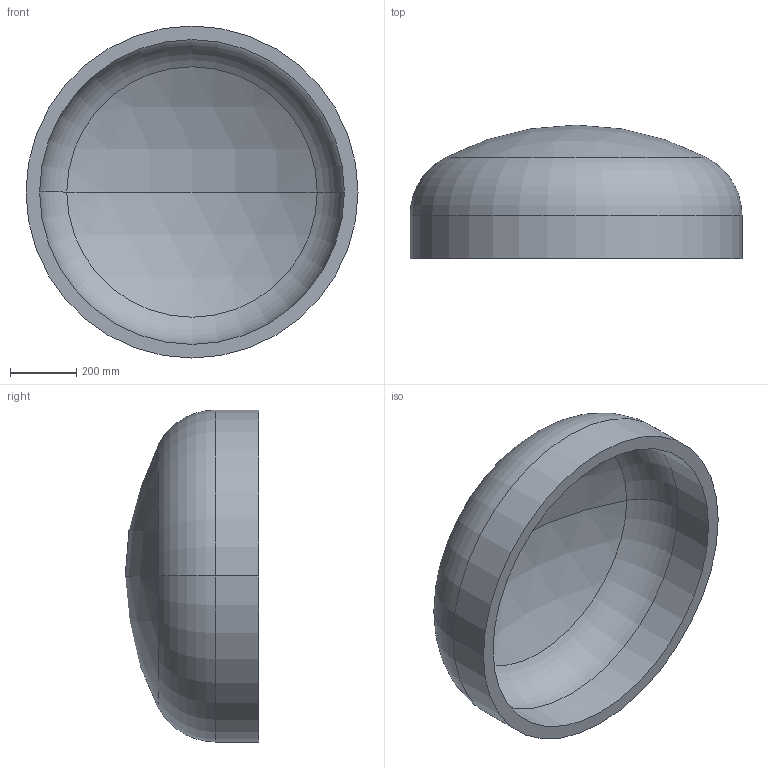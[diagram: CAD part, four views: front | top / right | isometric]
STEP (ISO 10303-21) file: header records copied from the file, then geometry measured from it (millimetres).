
FILE_DESCRIPTION (( 'STEP AP203' ), '1' );
FILE_NAME ('DIN 28013 Korbbogenform_-_Boden DIN 28013 - 1000 x 130 - I - s=41.step', '2016-07-01T08:48:55', ( '' ), ( '' ), 'SwSTEP 2.0', 'SolidWorks 2013', '' );
FILE_SCHEMA (( 'CONFIG_CONTROL_DESIGN' ));
Length unit declared in the file: millimetre
Products named in the file (1): DIN 28013 Korbbogenform_-_Boden DIN 28013 - 1000 x 130 - I - s=41
Bounding box: 1000 x 402.13 x 1000 mm (x, y, z)
Volume: 58406791.8 mm3; surface area: 2976156.1 mm2
Topology: 1 solids, 1 shells, 13 faces, 24 edges, 14 vertices
Faces by surface type: torus 4, cylinder 4, sphere 4, plane 1
Entity records: 407 total; most frequent: DIRECTION 72, CARTESIAN_POINT 52, ORIENTED_EDGE 48, AXIS2_PLACEMENT_3D 34, EDGE_CURVE 24, CIRCLE 20, EDGE_LOOP 14, VERTEX_POINT 14
